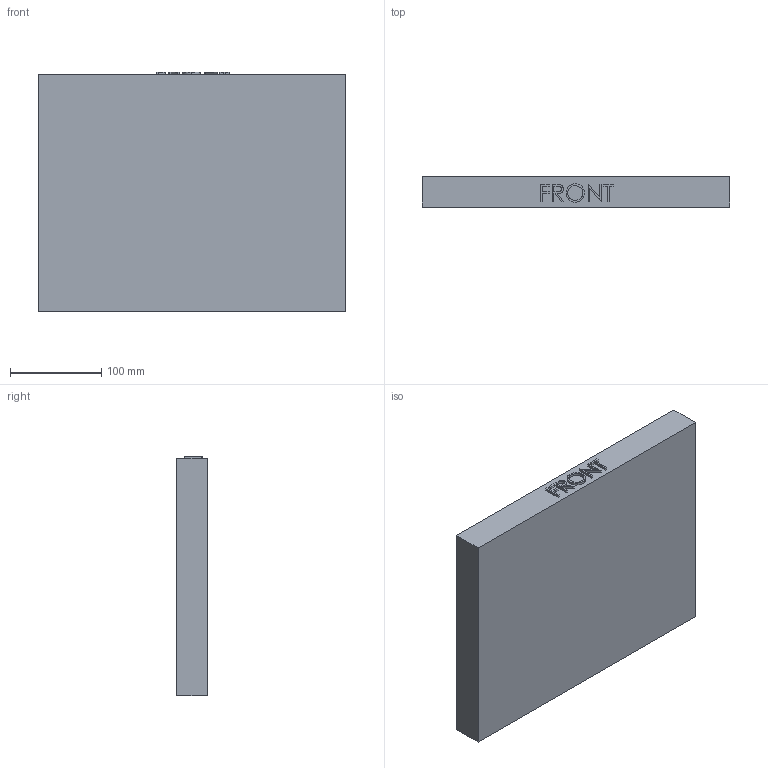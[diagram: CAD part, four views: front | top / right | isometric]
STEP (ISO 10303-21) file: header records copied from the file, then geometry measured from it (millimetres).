
FILE_DESCRIPTION (( 'STEP AP203' ), '1' );
FILE_NAME ('1080_CASE_BOT.STEP', '2007-03-19T21:42:12', ( ' ' ), ( ' ' ), 'SwSTEP 2.0', 'SolidWorks 2006233', '' );
FILE_SCHEMA (( 'CONFIG_CONTROL_DESIGN' ));
Length unit declared in the file: inch
Products named in the file (1): 1080_CASE_BOT
Bounding box: 336.17 x 33.46 x 262.51 mm (x, y, z)
Volume: 1135663.9 mm3; surface area: 239096.7 mm2
Topology: 1 solids, 1 shells, 214 faces, 529 edges, 306 vertices
Faces by surface type: plane 75, bspline 65, cylinder 56, sphere 18
Entity records: 8671 total; most frequent: CARTESIAN_POINT 4248, ORIENTED_EDGE 1010, DIRECTION 763, EDGE_CURVE 505, VERTEX_POINT 302, AXIS2_PLACEMENT_3D 256, VECTOR 251, LINE 251
